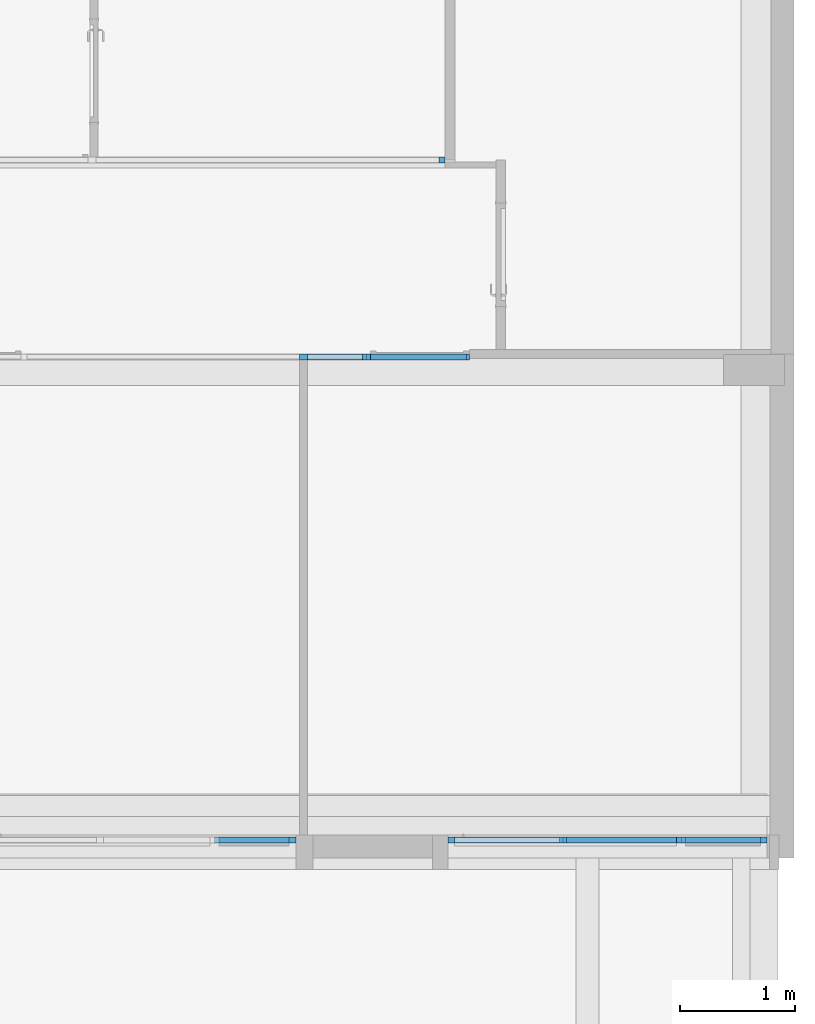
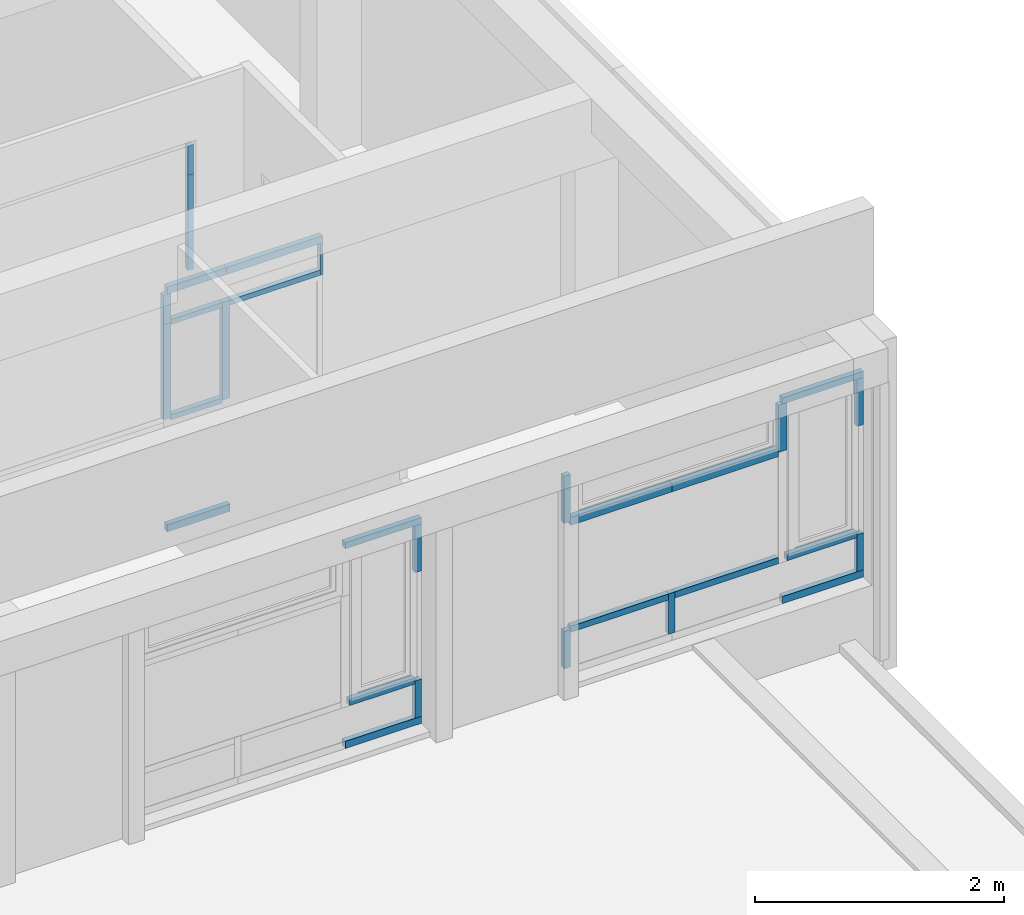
# One storey, part 16 of 49: 30 members, 4 elements without a shape of their own.
"""IFC4 building model written with IfcOpenShell, lengths in metres."""

from ifc_helpers import new_model, entity, si_unit, converted_unit, derived_unit, direction, frame, origin, place, context, subcontext, project, spatial, indexed_curve, outline, extrude, source, transform, mapped, material, type_object, type_shapes, element, aggregate, save


model = new_model("IFC4")

# Units and contexts
model_context = context("Model", 3, precision=1e-05, world=origin(), true_north=direction((6.12303176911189e-17, 1.0)))
body_context = subcontext(model_context, "Body", "Model", "MODEL_VIEW")
ifc_project = project(units=[si_unit("LENGTHUNIT", "METRE"), si_unit("AREAUNIT", "SQUARE_METRE"), si_unit("VOLUMEUNIT", "CUBIC_METRE"), converted_unit("PLANEANGLEUNIT", "DEGREE", entity("IfcRatioMeasure", 0.0174532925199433), si_unit("PLANEANGLEUNIT", "RADIAN"), dimensions=[0, 0, 0, 0, 0, 0, 0]), si_unit("MASSUNIT", "GRAM", prefix="KILO"), derived_unit("MASSDENSITYUNIT", [(si_unit("MASSUNIT", "GRAM", prefix="KILO"), 1), (si_unit("LENGTHUNIT", "METRE"), -3)]), derived_unit("MOMENTOFINERTIAUNIT", [(si_unit("LENGTHUNIT", "METRE"), 4)]), si_unit("TIMEUNIT", "SECOND"), si_unit("FREQUENCYUNIT", "HERTZ"), si_unit("THERMODYNAMICTEMPERATUREUNIT", "DEGREE_CELSIUS"), derived_unit("THERMALTRANSMITTANCEUNIT", [(si_unit("MASSUNIT", "GRAM", prefix="KILO"), 1), (si_unit("THERMODYNAMICTEMPERATUREUNIT", "KELVIN"), -1), (si_unit("TIMEUNIT", "SECOND"), -3)]), derived_unit("VOLUMETRICFLOWRATEUNIT", [(si_unit("LENGTHUNIT", "METRE"), 3), (si_unit("TIMEUNIT", "SECOND"), -1)]), si_unit("ELECTRICCURRENTUNIT", "AMPERE"), si_unit("ELECTRICVOLTAGEUNIT", "VOLT"), si_unit("POWERUNIT", "WATT"), si_unit("FORCEUNIT", "NEWTON", prefix="KILO"), si_unit("ILLUMINANCEUNIT", "LUX"), si_unit("LUMINOUSFLUXUNIT", "LUMEN"), si_unit("LUMINOUSINTENSITYUNIT", "CANDELA"), derived_unit("USERDEFINED", [(si_unit("MASSUNIT", "GRAM", prefix="KILO"), -1), (si_unit("LENGTHUNIT", "METRE"), -2), (si_unit("TIMEUNIT", "SECOND"), 3), (si_unit("LUMINOUSFLUXUNIT", "LUMEN"), 1)]), derived_unit("LINEARVELOCITYUNIT", [(si_unit("LENGTHUNIT", "METRE"), 1), (si_unit("TIMEUNIT", "SECOND"), -1)]), si_unit("PRESSUREUNIT", "PASCAL"), derived_unit("USERDEFINED", [(si_unit("LENGTHUNIT", "METRE"), -2), (si_unit("MASSUNIT", "GRAM", prefix="KILO"), 1), (si_unit("TIMEUNIT", "SECOND"), -2)]), derived_unit("LINEARFORCEUNIT", [(si_unit("MASSUNIT", "GRAM", prefix="KILO"), 1), (si_unit("LENGTHUNIT", "METRE"), 1), (si_unit("TIMEUNIT", "SECOND"), -2), (si_unit("LENGTHUNIT", "METRE"), -1)]), derived_unit("PLANARFORCEUNIT", [(si_unit("MASSUNIT", "GRAM", prefix="KILO"), 1), (si_unit("LENGTHUNIT", "METRE"), 1), (si_unit("TIMEUNIT", "SECOND"), -2), (si_unit("LENGTHUNIT", "METRE"), -2)])], contexts=[model_context])

# Site, building, storey
site_placement = place(None, origin())
site = spatial("IfcSite", under=ifc_project, at=site_placement, Name="Default", CompositionType="ELEMENT")
building_placement = place(site_placement, origin())
building = spatial("IfcBuilding", under=site, at=building_placement, Name="HOTEL CONSULAIRE BOULOGNE SUR MER", CompositionType="ELEMENT")
storey_placement = place(building_placement, frame((0.0, 0.0, 6.81974152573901)))
storey = spatial("IfcBuildingStorey", under=building, at=storey_placement, Name="Niveau 2", CompositionType="ELEMENT", Elevation=6.81974152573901)

# Curtain wall, members
curtain_wall_type = type_object("IfcCurtainWallType", Name="Mur-rideau:Simple panneau", PredefinedType="NOTDEFINED")
curtain_wall_1_placement = place(storey_placement, frame((0.0, 0.0, -6.81974152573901)))
curtain_wall_1 = element("IfcCurtainWall", 1, at=curtain_wall_1_placement, inside=storey, type_object=curtain_wall_type, Name="Mur-rideau:Simple panneau", ObjectType="Mur-rideau:Simple panneau", PredefinedType="NOTDEFINED")
ifc_material = material(Name="PVC - Blanc", Category="Plastique")
member_type_1 = type_object("IfcMemberType", Name="Meneau rectangulaire:50 x 125 mm", PredefinedType="MULLION", material=ifc_material)
shared_shape_1 = source(origin(), body_context, "Body", "SweptSolid", [
    extrude(outline(indexed_curve([(-0.025, -0.0125), (0.025, -0.0125), (0.025, 0.0125), (-0.025, 0.0125), (-0.025, -0.0125)], self_intersect=False)), frame((-0.0125, -0.025, -0.311), z_axis=(0.0, 0.0, 1.0), x_axis=(0.0, -1.0, 0.0)), (0.0, 0.0, 1.0), 0.311),
])
type_shapes(member_type_1, [shared_shape_1])
member_1_placement = place(storey_placement, frame((19.9763568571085, -19.643155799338, 2.332)))
member_1 = element("IfcMember", 2, at=member_1_placement, type_object=member_type_1, material=ifc_material, Name="Meneau rectangulaire:50 x 125 mm", ObjectType="Meneau rectangulaire:50 x 125 mm", PredefinedType="MULLION", context=body_context, shape_type="MappedRepresentation", body=[
    mapped(shared_shape_1, transform((0.0, 0.0, 0.0), scale=1.0)),
])
member_type_2 = type_object("IfcMemberType", Name="Meneau rectangulaire:50 x 25mm", PredefinedType="MULLION", material=ifc_material)
shared_shape_2 = source(origin(), body_context, "Body", "SweptSolid", [
    extrude(outline(indexed_curve([(-0.025, -0.025), (0.025, -0.025), (0.025, 0.025), (-0.025, 0.025), (-0.025, -0.025)], self_intersect=False)), frame((0.0, -0.025, -0.476999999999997), z_axis=(0.0, 0.0, 1.0), x_axis=(0.0, -1.0, 0.0)), (0.0, 0.0, 1.0), 0.476999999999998),
])
type_shapes(member_type_2, [shared_shape_2])
member_2_placement = place(storey_placement, frame((18.5683568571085, -19.643155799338, 2.046), z_axis=(-1.0, 0.0, 0.0), x_axis=(0.0, 0.0, 1.0)))
member_2 = element("IfcMember", 3, at=member_2_placement, type_object=member_type_2, material=ifc_material, Name="Meneau rectangulaire:50 x 25mm", ObjectType="Meneau rectangulaire:50 x 25mm", PredefinedType="MULLION", context=body_context, shape_type="MappedRepresentation", body=[
    mapped(shared_shape_2, transform((0.0, 0.0, 0.0), scale=1.0)),
])
member_3_placement = place(storey_placement, frame((18.5683568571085, -19.643155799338, 1.111), z_axis=(-1.0, 0.0, 0.0), x_axis=(0.0, 0.0, 1.0)))
member_3 = element("IfcMember", 4, at=member_3_placement, type_object=member_type_2, material=ifc_material, Name="Meneau rectangulaire:50 x 25mm", ObjectType="Meneau rectangulaire:50 x 25mm", PredefinedType="MULLION", context=body_context, shape_type="MappedRepresentation", body=[
    mapped(shared_shape_2, transform((0.0, 0.0, 0.0), scale=1.0)),
])
member_type_3 = type_object("IfcMemberType", Name="Meneau rectangulaire:50 x 25mm", PredefinedType="MULLION", material=ifc_material)
shared_shape_3 = source(origin(), body_context, "Body", "SweptSolid", [
    extrude(outline(indexed_curve([(-0.025, -0.025), (0.025, -0.025), (0.025, 0.025), (-0.025, 0.025), (-0.025, -0.025)], self_intersect=False)), frame((0.0, -0.025, -0.836000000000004), z_axis=(0.0, 0.0, 1.0), x_axis=(0.0, -1.0, 0.0)), (0.0, 0.0, 1.0), 0.836000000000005),
])
type_shapes(member_type_3, [shared_shape_3])
member_4_placement = place(storey_placement, frame((19.1153568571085, -19.643155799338, 2.046), z_axis=(-1.0, 0.0, 0.0), x_axis=(0.0, 0.0, 1.0)))
member_4 = element("IfcMember", 5, at=member_4_placement, type_object=member_type_3, material=ifc_material, Name="Meneau rectangulaire:50 x 25mm", ObjectType="Meneau rectangulaire:50 x 25mm", PredefinedType="MULLION", context=body_context, shape_type="MappedRepresentation", body=[
    mapped(shared_shape_3, transform((0.0, 0.0, 0.0), scale=1.0)),
])
member_type_4 = type_object("IfcMemberType", Name="Meneau rectangulaire:50 x 35", PredefinedType="MULLION", material=ifc_material)
shared_shape_4 = source(origin(), body_context, "Body", "SweptSolid", [
    extrude(outline(indexed_curve([(-0.025, -0.035), (0.025, -0.035), (0.025, 0.035), (-0.025, 0.035), (-0.025, -0.035)], self_intersect=False)), frame((0.0, -0.025, -0.959999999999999), z_axis=(0.0, 0.0, 1.0), x_axis=(0.0, -1.0, 0.0)), (0.0, 0.0, 1.0), 0.959999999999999),
])
type_shapes(member_type_4, [shared_shape_4])
member_5_placement = place(storey_placement, frame((19.0803568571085, -19.643155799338, 1.111), z_axis=(0.0, 0.0, -1.0), x_axis=(-1.0, 0.0, 0.0)))
member_5 = element("IfcMember", 6, at=member_5_placement, type_object=member_type_4, material=ifc_material, Name="Meneau rectangulaire:50 x 35", ObjectType="Meneau rectangulaire:50 x 35", PredefinedType="MULLION", context=body_context, shape_type="MappedRepresentation", body=[
    mapped(shared_shape_4, transform((0.0, 0.0, 0.0), scale=1.0)),
])
member_type_5 = type_object("IfcMemberType", Name="Meneau rectangulaire:50 x 35", PredefinedType="MULLION", material=ifc_material)
shared_shape_5 = source(origin(), body_context, "Body", "SweptSolid", [
    extrude(outline(indexed_curve([(-0.025, -0.035), (0.025, -0.035), (0.025, 0.035), (-0.025, 0.035), (-0.025, -0.035)], self_intersect=False)), frame((0.0, -0.025, -0.935), z_axis=(0.0, 0.0, 1.0), x_axis=(0.0, -1.0, 0.0)), (0.0, 0.0, 1.0), 0.935),
])
type_shapes(member_type_5, [shared_shape_5])
member_6_placement = place(storey_placement, frame((18.5333568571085, -19.643155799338, 1.111), z_axis=(0.0, 0.0, -1.0), x_axis=(-1.0, 0.0, 0.0)))
member_6 = element("IfcMember", 7, at=member_6_placement, type_object=member_type_5, material=ifc_material, Name="Meneau rectangulaire:50 x 35", ObjectType="Meneau rectangulaire:50 x 35", PredefinedType="MULLION", context=body_context, shape_type="MappedRepresentation", body=[
    mapped(shared_shape_5, transform((0.0, 0.0, 0.0), scale=1.0)),
])
member_type_6 = type_object("IfcMemberType", Name="Meneau rectangulaire:50 x 35", PredefinedType="MULLION", material=ifc_material)
shared_shape_6 = source(origin(), body_context, "Body", "SweptSolid", [
    extrude(outline(indexed_curve([(-0.025, -0.035), (0.025, -0.035), (0.025, 0.035), (-0.025, 0.035), (-0.025, -0.035)], self_intersect=False)), frame((0.0, -0.025, -0.286), z_axis=(0.0, 0.0, 1.0), x_axis=(0.0, -1.0, 0.0)), (0.0, 0.0, 1.0), 0.286),
])
type_shapes(member_type_6, [shared_shape_6])
member_7_placement = place(storey_placement, frame((18.5333568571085, -19.643155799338, 2.046), z_axis=(0.0, 0.0, -1.0), x_axis=(-1.0, 0.0, 0.0)))
member_7 = element("IfcMember", 8, at=member_7_placement, type_object=member_type_6, material=ifc_material, Name="Meneau rectangulaire:50 x 35", ObjectType="Meneau rectangulaire:50 x 35", PredefinedType="MULLION", context=body_context, shape_type="MappedRepresentation", body=[
    mapped(shared_shape_6, transform((0.0, 0.0, 0.0), scale=1.0)),
])
member_type_7 = type_object("IfcMemberType", Name="Meneau rectangulaire:50 x 35", PredefinedType="MULLION", material=ifc_material)
shared_shape_7 = source(origin(), body_context, "Body", "SweptSolid", [
    extrude(outline(indexed_curve([(-0.025, -0.035), (0.025, -0.035), (0.025, 0.035), (-0.025, 0.035), (-0.025, -0.035)], self_intersect=False)), frame((-0.035, -0.025, -0.896000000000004), z_axis=(0.0, 0.0, 1.0), x_axis=(0.0, -1.0, 0.0)), (0.0, 0.0, 1.0), 0.896000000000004),
])
type_shapes(member_type_7, [shared_shape_7])
member_8_placement = place(storey_placement, frame((19.0803568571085, -19.643155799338, 2.402), z_axis=(-1.0, 0.0, 0.0), x_axis=(0.0, 0.0, 1.0)))
member_8 = element("IfcMember", 9, at=member_8_placement, type_object=member_type_7, material=ifc_material, Name="Meneau rectangulaire:50 x 35", ObjectType="Meneau rectangulaire:50 x 35", PredefinedType="MULLION", context=body_context, shape_type="MappedRepresentation", body=[
    mapped(shared_shape_7, transform((0.0, 0.0, 0.0), scale=1.0)),
])
member_type_8 = type_object("IfcMemberType", Name="Meneau rectangulaire:50 x 35", PredefinedType="MULLION", material=ifc_material)
shared_shape_8 = source(origin(), body_context, "Body", "SweptSolid", [
    extrude(outline(indexed_curve([(-0.025, -0.035), (0.025, -0.035), (0.025, 0.035), (-0.025, 0.035), (-0.025, -0.035)], self_intersect=False)), frame((-0.035, -0.025, -0.546999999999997), z_axis=(0.0, 0.0, 1.0), x_axis=(0.0, -1.0, 0.0)), (0.0, 0.0, 1.0), 0.546999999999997),
])
type_shapes(member_type_8, [shared_shape_8])
member_9_placement = place(storey_placement, frame((18.5333568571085, -19.643155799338, 2.402), z_axis=(-1.0, 0.0, 0.0), x_axis=(0.0, 0.0, 1.0)))
member_9 = element("IfcMember", 10, at=member_9_placement, type_object=member_type_8, material=ifc_material, Name="Meneau rectangulaire:50 x 35", ObjectType="Meneau rectangulaire:50 x 35", PredefinedType="MULLION", context=body_context, shape_type="MappedRepresentation", body=[
    mapped(shared_shape_8, transform((0.0, 0.0, 0.0), scale=1.0)),
])
member_type_9 = type_object("IfcMemberType", Name="Meneau rectangulaire:50 x 35", PredefinedType="MULLION", material=ifc_material)
shared_shape_9 = source(origin(), body_context, "Body", "SweptSolid", [
    extrude(outline(indexed_curve([(-0.025, -0.035), (0.025, -0.035), (0.025, 0.035), (-0.025, 0.035), (-0.025, -0.035)], self_intersect=False)), frame((-0.035, -0.025, -0.581999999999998), z_axis=(0.0, 0.0, 1.0), x_axis=(0.0, -1.0, 0.0)), (0.0, 0.0, 1.0), 0.581999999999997),
])
type_shapes(member_type_9, [shared_shape_9])
member_10_placement = place(storey_placement, frame((19.1153568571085, -19.643155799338, 0.0), z_axis=(1.0, 0.0, 0.0), x_axis=(0.0, 0.0, -1.0)))
member_10 = element("IfcMember", 11, at=member_10_placement, type_object=member_type_9, material=ifc_material, Name="Meneau rectangulaire:50 x 35", ObjectType="Meneau rectangulaire:50 x 35", PredefinedType="MULLION", context=body_context, shape_type="MappedRepresentation", body=[
    mapped(shared_shape_9, transform((0.0, 0.0, 0.0), scale=1.0)),
])
aggregate(curtain_wall_1, [member_1, member_2, member_4, member_5, member_6, member_7, member_3, member_8, member_9, member_10])

curtain_wall_2_placement = place(storey_placement, frame((0.0, 0.0, -6.81974152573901)))
curtain_wall_2 = element("IfcCurtainWall", 12, at=curtain_wall_2_placement, inside=storey, type_object=curtain_wall_type, Name="Mur-rideau:Simple panneau", ObjectType="Mur-rideau:Simple panneau", PredefinedType="NOTDEFINED")
member_type_10 = type_object("IfcMemberType", Name="Meneau rectangulaire:50 x 25mm", PredefinedType="MULLION", material=ifc_material)
shared_shape_10 = source(origin(), body_context, "Body", "SweptSolid", [
    extrude(outline(indexed_curve([(-0.025, -0.025), (0.025, -0.025), (0.025, 0.025), (-0.025, 0.025), (-0.025, -0.025)], self_intersect=False)), frame((-0.025, -0.025, -0.934999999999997), z_axis=(0.0, 0.0, 1.0), x_axis=(0.0, -1.0, 0.0)), (0.0, 0.0, 1.0), 0.934999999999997),
])
type_shapes(member_type_10, [shared_shape_10])
member_11_placement = place(storey_placement, frame((19.762075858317, -17.9313078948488, 2.046)))
member_11 = element("IfcMember", 13, at=member_11_placement, type_object=member_type_10, material=ifc_material, Name="Meneau rectangulaire:50 x 25mm", ObjectType="Meneau rectangulaire:50 x 25mm", PredefinedType="MULLION", context=body_context, shape_type="MappedRepresentation", body=[
    mapped(shared_shape_10, transform((0.0, 0.0, 0.0), scale=1.0)),
])
member_type_11 = type_object("IfcMemberType", Name="Meneau rectangulaire:50 x 25mm", PredefinedType="MULLION", material=ifc_material)
shared_shape_11 = source(origin(), body_context, "Body", "SweptSolid", [
    extrude(outline(indexed_curve([(-0.025, -0.025), (0.025, -0.025), (0.025, 0.025), (-0.025, 0.025), (-0.025, -0.025)], self_intersect=False)), frame((-0.025, -0.025, -0.286), z_axis=(0.0, 0.0, 1.0), x_axis=(0.0, -1.0, 0.0)), (0.0, 0.0, 1.0), 0.286),
])
type_shapes(member_type_11, [shared_shape_11])
member_12_placement = place(storey_placement, frame((19.762075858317, -17.9313078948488, 2.332)))
member_12 = element("IfcMember", 14, at=member_12_placement, type_object=member_type_11, material=ifc_material, Name="Meneau rectangulaire:50 x 25mm", ObjectType="Meneau rectangulaire:50 x 25mm", PredefinedType="MULLION", context=body_context, shape_type="MappedRepresentation", body=[
    mapped(shared_shape_11, transform((0.0, 0.0, 0.0), scale=1.0)),
])
aggregate(curtain_wall_2, [member_11, member_12])

curtain_wall_3_placement = place(storey_placement, frame((0.0, 0.0, -6.81974152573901)))
curtain_wall_3 = element("IfcCurtainWall", 15, at=curtain_wall_3_placement, inside=storey, type_object=curtain_wall_type, Name="Mur-rideau:Simple panneau", ObjectType="Mur-rideau:Simple panneau", PredefinedType="NOTDEFINED")
member_type_12 = type_object("IfcMemberType", Name="Meneau rectangulaire:50 x 35", PredefinedType="MULLION", material=ifc_material)
shared_shape_12 = source(origin(), body_context, "Body", "SweptSolid", [
    extrude(outline(indexed_curve([(-0.025, -0.035), (0.025, -0.035), (0.025, 0.035), (-0.025, 0.035), (-0.025, -0.035)], self_intersect=False)), frame((-0.035, -0.025, -0.748999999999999), z_axis=(0.0, 0.0, 1.0), x_axis=(0.0, -1.0, 0.0)), (0.0, 0.0, 1.0), 0.748999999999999),
])
type_shapes(member_type_12, [shared_shape_12])
member_13_placement = place(storey_placement, frame((21.8160413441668, -23.8933633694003, 0.693999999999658), z_axis=(-1.0, 0.0, 0.0), x_axis=(0.0, 0.0, -1.0)))
member_13 = element("IfcMember", 16, at=member_13_placement, type_object=member_type_12, material=ifc_material, Name="Meneau rectangulaire:50 x 35", ObjectType="Meneau rectangulaire:50 x 35", PredefinedType="MULLION", context=body_context, shape_type="MappedRepresentation", body=[
    mapped(shared_shape_12, transform((0.0, 0.0, 0.0), scale=1.0)),
])
member_type_13 = type_object("IfcMemberType", Name="Meneau rectangulaire:50 x 30", PredefinedType="MULLION", material=ifc_material)
shared_shape_13 = source(origin(), body_context, "Body", "SweptSolid", [
    extrude(outline(indexed_curve([(-0.025, -0.03), (0.025, -0.03), (0.025, 0.03), (-0.025, 0.03), (-0.025, -0.03)], self_intersect=False)), frame((-0.03, -0.025, -0.366), z_axis=(0.0, 0.0, 1.0), x_axis=(0.0, -1.0, 0.0)), (0.0, 0.0, 1.0), 0.366),
])
type_shapes(member_type_13, [shared_shape_13])
member_14_placement = place(storey_placement, frame((19.7880413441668, -23.8933633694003, 1.12999999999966), z_axis=(0.0, 0.0, 1.0), x_axis=(-1.0, 0.0, 0.0)))
member_14 = element("IfcMember", 17, at=member_14_placement, type_object=member_type_13, material=ifc_material, Name="Meneau rectangulaire:50 x 30", ObjectType="Meneau rectangulaire:50 x 30", PredefinedType="MULLION", context=body_context, shape_type="MappedRepresentation", body=[
    mapped(shared_shape_13, transform((0.0, 0.0, 0.0), scale=1.0)),
])
member_type_14 = type_object("IfcMemberType", Name="Meneau rectangulaire:50 x 30", PredefinedType="MULLION", material=ifc_material)
shared_shape_14 = source(origin(), body_context, "Body", "SweptSolid", [
    extrude(outline(indexed_curve([(-0.025, -0.03), (0.025, -0.03), (0.025, 0.03), (-0.025, 0.03), (-0.025, -0.03)], self_intersect=False)), frame((-0.03, -0.025, -0.462000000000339), z_axis=(0.0, 0.0, 1.0), x_axis=(0.0, -1.0, 0.0)), (0.0, 0.0, 1.0), 0.462000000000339),
])
type_shapes(member_type_14, [shared_shape_14])
member_15_placement = place(storey_placement, frame((19.7880413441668, -23.8933633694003, 2.652), z_axis=(0.0, 0.0, 1.0), x_axis=(-1.0, 0.0, 0.0)))
member_15 = element("IfcMember", 18, at=member_15_placement, type_object=member_type_14, material=ifc_material, Name="Meneau rectangulaire:50 x 30", ObjectType="Meneau rectangulaire:50 x 30", PredefinedType="MULLION", context=body_context, shape_type="MappedRepresentation", body=[
    mapped(shared_shape_14, transform((0.0, 0.0, 0.0), scale=1.0)),
])
member_type_15 = type_object("IfcMemberType", Name="Meneau rectangulaire:50 x 30", PredefinedType="MULLION", material=ifc_material)
shared_shape_15 = source(origin(), body_context, "Body", "SweptSolid", [
    extrude(outline(indexed_curve([(-0.025, -0.03), (0.025, -0.03), (0.025, 0.03), (-0.025, 0.03), (-0.025, -0.03)], self_intersect=False)), frame((-0.03, -0.025, -0.462000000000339), z_axis=(0.0, 0.0, 1.0), x_axis=(0.0, -1.0, 0.0)), (0.0, 0.0, 1.0), 0.462000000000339),
])
type_shapes(member_type_15, [shared_shape_15])
member_16_placement = place(storey_placement, frame((22.5650413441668, -23.8933633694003, 2.18999999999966), z_axis=(0.0, 0.0, -1.0), x_axis=(1.0, 0.0, 0.0)))
member_16 = element("IfcMember", 19, at=member_16_placement, type_object=member_type_15, material=ifc_material, Name="Meneau rectangulaire:50 x 30", ObjectType="Meneau rectangulaire:50 x 30", PredefinedType="MULLION", context=body_context, shape_type="MappedRepresentation", body=[
    mapped(shared_shape_15, transform((0.0, 0.0, 0.0), scale=1.0)),
])

# Curtain wall, member
curtain_wall_4_placement = place(storey_placement, frame((0.0, 0.0, -6.81974152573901)))
curtain_wall_4 = element("IfcCurtainWall", 20, at=curtain_wall_4_placement, inside=storey, type_object=curtain_wall_type, Name="Mur-rideau:Simple panneau", ObjectType="Mur-rideau:Simple panneau", PredefinedType="NOTDEFINED")
member_17_placement = place(storey_placement, frame((18.4670413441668, -23.8933633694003, 2.18999999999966), z_axis=(0.0, 0.0, -1.0), x_axis=(1.0, 0.0, 0.0)))
member_17 = element("IfcMember", 21, at=member_17_placement, type_object=member_type_15, material=ifc_material, Name="Meneau rectangulaire:50 x 30", ObjectType="Meneau rectangulaire:50 x 30", PredefinedType="MULLION", context=body_context, shape_type="MappedRepresentation", body=[
    mapped(shared_shape_15, transform((0.0, 0.0, 0.0), scale=1.0)),
])

# Member
member_type_16 = type_object("IfcMemberType", Name="Meneau rectangulaire:50 x 30", PredefinedType="MULLION", material=ifc_material)
shared_shape_16 = source(origin(), body_context, "Body", "SweptSolid", [
    extrude(outline(indexed_curve([(-0.025, -0.03), (0.025, -0.03), (0.025, 0.03), (-0.025, 0.03), (-0.025, -0.03)], self_intersect=False)), frame((-0.03, -0.025, -0.366), z_axis=(0.0, 0.0, 1.0), x_axis=(0.0, -1.0, 0.0)), (0.0, 0.0, 1.0), 0.366),
])
type_shapes(member_type_16, [shared_shape_16])
member_18_placement = place(storey_placement, frame((22.5650413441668, -23.8933633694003, 0.763999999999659), z_axis=(0.0, 0.0, -1.0), x_axis=(1.0, 0.0, 0.0)))
member_18 = element("IfcMember", 22, at=member_18_placement, type_object=member_type_16, material=ifc_material, Name="Meneau rectangulaire:50 x 30", ObjectType="Meneau rectangulaire:50 x 30", PredefinedType="MULLION", context=body_context, shape_type="MappedRepresentation", body=[
    mapped(shared_shape_16, transform((0.0, 0.0, 0.0), scale=1.0)),
])

member_19_placement = place(storey_placement, frame((18.4670413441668, -23.8933633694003, 0.763999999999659), z_axis=(0.0, 0.0, -1.0), x_axis=(1.0, 0.0, 0.0)))
member_19 = element("IfcMember", 23, at=member_19_placement, type_object=member_type_16, material=ifc_material, Name="Meneau rectangulaire:50 x 30", ObjectType="Meneau rectangulaire:50 x 30", PredefinedType="MULLION", context=body_context, shape_type="MappedRepresentation", body=[
    mapped(shared_shape_16, transform((0.0, 0.0, 0.0), scale=1.0)),
])

member_type_17 = type_object("IfcMemberType", Name="Meneau rectangulaire:50 x 30", PredefinedType="MULLION", material=ifc_material)
shared_shape_17 = source(origin(), body_context, "Body", "SweptSolid", [
    extrude(outline(indexed_curve([(-0.025, -0.03), (0.025, -0.03), (0.025, 0.03), (-0.025, 0.03), (-0.025, -0.03)], self_intersect=False)), frame((-0.03, -0.025, -0.749), z_axis=(0.0, 0.0, 1.0), x_axis=(0.0, -1.0, 0.0)), (0.0, 0.0, 1.0), 0.749),
])
type_shapes(member_type_17, [shared_shape_17])
member_20_placement = place(storey_placement, frame((22.5650413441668, -23.8933633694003, 2.712), z_axis=(1.0, 0.0, 0.0), x_axis=(0.0, 0.0, 1.0)))
member_20 = element("IfcMember", 24, at=member_20_placement, type_object=member_type_17, material=ifc_material, Name="Meneau rectangulaire:50 x 30", ObjectType="Meneau rectangulaire:50 x 30", PredefinedType="MULLION", context=body_context, shape_type="MappedRepresentation", body=[
    mapped(shared_shape_17, transform((0.0, 0.0, 0.0), scale=1.0)),
])

member_type_18 = type_object("IfcMemberType", Name="Meneau rectangulaire:50 x 40", PredefinedType="MULLION", material=ifc_material)
shared_shape_18 = source(origin(), body_context, "Body", "SweptSolid", [
    extrude(outline(indexed_curve([(-0.025, -0.04), (0.025, -0.04), (0.025, 0.04), (-0.025, 0.04), (-0.025, -0.04)], self_intersect=False)), frame((0.0, -0.025, -0.988000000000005), z_axis=(0.0, 0.0, 1.0), x_axis=(0.0, -1.0, 0.0)), (0.0, 0.0, 1.0), 0.988000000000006),
])
type_shapes(member_type_18, [shared_shape_18])
member_21_placement = place(storey_placement, frame((21.7760413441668, -23.8933633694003, 2.18999999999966), z_axis=(1.0, 0.0, 0.0), x_axis=(0.0, 0.0, 1.0)))
member_21 = element("IfcMember", 25, at=member_21_placement, type_object=member_type_18, material=ifc_material, Name="Meneau rectangulaire:50 x 40", ObjectType="Meneau rectangulaire:50 x 40", PredefinedType="MULLION", context=body_context, shape_type="MappedRepresentation", body=[
    mapped(shared_shape_18, transform((0.0, 0.0, 0.0), scale=1.0)),
])

member_type_19 = type_object("IfcMemberType", Name="Meneau rectangulaire:50 x 40", PredefinedType="MULLION", material=ifc_material)
shared_shape_19 = source(origin(), body_context, "Body", "SweptSolid", [
    extrude(outline(indexed_curve([(-0.025, -0.04), (0.025, -0.04), (0.025, 0.04), (-0.025, 0.04), (-0.025, -0.04)], self_intersect=False)), frame((0.0, -0.025, -0.939999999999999), z_axis=(0.0, 0.0, 1.0), x_axis=(0.0, -1.0, 0.0)), (0.0, 0.0, 1.0), 0.939999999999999),
])
type_shapes(member_type_19, [shared_shape_19])
member_22_placement = place(storey_placement, frame((20.7880413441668, -23.8933633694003, 2.18999999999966), z_axis=(1.0, 0.0, 0.0), x_axis=(0.0, 0.0, 1.0)))
member_22 = element("IfcMember", 26, at=member_22_placement, type_object=member_type_19, material=ifc_material, Name="Meneau rectangulaire:50 x 40", ObjectType="Meneau rectangulaire:50 x 40", PredefinedType="MULLION", context=body_context, shape_type="MappedRepresentation", body=[
    mapped(shared_shape_19, transform((0.0, 0.0, 0.0), scale=1.0)),
])

member_type_20 = type_object("IfcMemberType", Name="Meneau rectangulaire:50 x 40", PredefinedType="MULLION", material=ifc_material)
shared_shape_20 = source(origin(), body_context, "Body", "SweptSolid", [
    extrude(outline(indexed_curve([(-0.025, -0.04), (0.025, -0.04), (0.025, 0.04), (-0.025, 0.04), (-0.025, -0.04)], self_intersect=False)), frame((0.0, -0.025, -0.462000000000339), z_axis=(0.0, 0.0, 1.0), x_axis=(0.0, -1.0, 0.0)), (0.0, 0.0, 1.0), 0.462000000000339),
])
type_shapes(member_type_20, [shared_shape_20])
member_23_placement = place(storey_placement, frame((21.8160413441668, -23.8933633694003, 2.18999999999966), z_axis=(0.0, 0.0, -1.0), x_axis=(1.0, 0.0, 0.0)))
member_23 = element("IfcMember", 27, at=member_23_placement, type_object=member_type_20, material=ifc_material, Name="Meneau rectangulaire:50 x 40", ObjectType="Meneau rectangulaire:50 x 40", PredefinedType="MULLION", context=body_context, shape_type="MappedRepresentation", body=[
    mapped(shared_shape_20, transform((0.0, 0.0, 0.0), scale=1.0)),
])

member_type_21 = type_object("IfcMemberType", Name="Meneau rectangulaire:50 x 30", PredefinedType="MULLION", material=ifc_material)
shared_shape_21 = source(origin(), body_context, "Body", "SweptSolid", [
    extrude(outline(indexed_curve([(-0.025, -0.03), (0.025, -0.03), (0.025, 0.03), (-0.025, 0.03), (-0.025, -0.03)], self_intersect=False)), frame((0.0, -0.025, -0.958000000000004), z_axis=(0.0, 0.0, 1.0), x_axis=(0.0, -1.0, 0.0)), (0.0, 0.0, 1.0), 0.958000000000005),
])
type_shapes(member_type_21, [shared_shape_21])
member_24_placement = place(storey_placement, frame((21.7760413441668, -23.8933633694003, 1.12999999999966), z_axis=(1.0, 0.0, 0.0), x_axis=(0.0, 0.0, 1.0)))
member_24 = element("IfcMember", 28, at=member_24_placement, type_object=member_type_21, material=ifc_material, Name="Meneau rectangulaire:50 x 30", ObjectType="Meneau rectangulaire:50 x 30", PredefinedType="MULLION", context=body_context, shape_type="MappedRepresentation", body=[
    mapped(shared_shape_21, transform((0.0, 0.0, 0.0), scale=1.0)),
])

member_type_22 = type_object("IfcMemberType", Name="Meneau rectangulaire:50 x 30", PredefinedType="MULLION", material=ifc_material)
shared_shape_22 = source(origin(), body_context, "Body", "SweptSolid", [
    extrude(outline(indexed_curve([(-0.025, -0.03), (0.025, -0.03), (0.025, 0.03), (-0.025, 0.03), (-0.025, -0.03)], self_intersect=False)), frame((0.0, -0.025, -0.649), z_axis=(0.0, 0.0, 1.0), x_axis=(0.0, -1.0, 0.0)), (0.0, 0.0, 1.0), 0.648999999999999),
])
type_shapes(member_type_22, [shared_shape_22])
member_25_placement = place(storey_placement, frame((22.5050413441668, -23.8933633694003, 1.12999999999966), z_axis=(1.0, 0.0, 0.0), x_axis=(0.0, 0.0, 1.0)))
member_25 = element("IfcMember", 29, at=member_25_placement, type_object=member_type_22, material=ifc_material, Name="Meneau rectangulaire:50 x 30", ObjectType="Meneau rectangulaire:50 x 30", PredefinedType="MULLION", context=body_context, shape_type="MappedRepresentation", body=[
    mapped(shared_shape_22, transform((0.0, 0.0, 0.0), scale=1.0)),
])

member_type_23 = type_object("IfcMemberType", Name="Meneau rectangulaire:50 x 30", PredefinedType="MULLION", material=ifc_material)
shared_shape_23 = source(origin(), body_context, "Body", "SweptSolid", [
    extrude(outline(indexed_curve([(-0.025, -0.03), (0.025, -0.03), (0.025, 0.03), (-0.025, 0.03), (-0.025, -0.03)], self_intersect=False)), frame((0.0, -0.025, -0.909999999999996), z_axis=(0.0, 0.0, 1.0), x_axis=(0.0, -1.0, 0.0)), (0.0, 0.0, 1.0), 0.909999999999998),
])
type_shapes(member_type_23, [shared_shape_23])
member_26_placement = place(storey_placement, frame((20.7580413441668, -23.8933633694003, 1.12999999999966), z_axis=(1.0, 0.0, 0.0), x_axis=(0.0, 0.0, 1.0)))
member_26 = element("IfcMember", 30, at=member_26_placement, type_object=member_type_23, material=ifc_material, Name="Meneau rectangulaire:50 x 30", ObjectType="Meneau rectangulaire:50 x 30", PredefinedType="MULLION", context=body_context, shape_type="MappedRepresentation", body=[
    mapped(shared_shape_23, transform((0.0, 0.0, 0.0), scale=1.0)),
])

member_type_24 = type_object("IfcMemberType", Name="Meneau rectangulaire:50 x 30", PredefinedType="MULLION", material=ifc_material)
shared_shape_24 = source(origin(), body_context, "Body", "SweptSolid", [
    extrude(outline(indexed_curve([(-0.025, -0.03), (0.025, -0.03), (0.025, 0.03), (-0.025, 0.03), (-0.025, -0.03)], self_intersect=False)), frame((0.0, -0.025, -0.396), z_axis=(0.0, 0.0, 1.0), x_axis=(0.0, -1.0, 0.0)), (0.0, 0.0, 1.0), 0.396),
])
type_shapes(member_type_24, [shared_shape_24])
member_27_placement = place(storey_placement, frame((20.7880413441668, -23.8933633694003, 0.763999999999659), z_axis=(0.0, 0.0, -1.0), x_axis=(1.0, 0.0, 0.0)))
member_27 = element("IfcMember", 31, at=member_27_placement, type_object=member_type_24, material=ifc_material, Name="Meneau rectangulaire:50 x 30", ObjectType="Meneau rectangulaire:50 x 30", PredefinedType="MULLION", context=body_context, shape_type="MappedRepresentation", body=[
    mapped(shared_shape_24, transform((0.0, 0.0, 0.0), scale=1.0)),
])

aggregate(curtain_wall_3, [member_13, member_14, member_15, member_16, member_18, member_20, member_21, member_22, member_23, member_24, member_25, member_26, member_27])

member_type_25 = type_object("IfcMemberType", Name="Meneau rectangulaire:50 x 35", PredefinedType="MULLION", material=ifc_material)
shared_shape_25 = source(origin(), body_context, "Body", "SweptSolid", [
    extrude(outline(indexed_curve([(-0.025, -0.035), (0.025, -0.035), (0.025, 0.035), (-0.025, 0.035), (-0.025, -0.035)], self_intersect=False)), frame((-0.035, -0.025, -0.709), z_axis=(0.0, 0.0, 1.0), x_axis=(0.0, -1.0, 0.0)), (0.0, 0.0, 1.0), 0.708999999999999),
])
type_shapes(member_type_25, [shared_shape_25])
member_28_placement = place(storey_placement, frame((17.7580413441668, -23.8933633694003, 0.693999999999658), z_axis=(-1.0, 0.0, 0.0), x_axis=(0.0, 0.0, -1.0)))
member_28 = element("IfcMember", 32, at=member_28_placement, type_object=member_type_25, material=ifc_material, Name="Meneau rectangulaire:50 x 35", ObjectType="Meneau rectangulaire:50 x 35", PredefinedType="MULLION", context=body_context, shape_type="MappedRepresentation", body=[
    mapped(shared_shape_25, transform((0.0, 0.0, 0.0), scale=1.0)),
])

member_type_26 = type_object("IfcMemberType", Name="Meneau rectangulaire:50 x 30", PredefinedType="MULLION", material=ifc_material)
shared_shape_26 = source(origin(), body_context, "Body", "SweptSolid", [
    extrude(outline(indexed_curve([(-0.025, -0.03), (0.025, -0.03), (0.025, 0.03), (-0.025, 0.03), (-0.025, -0.03)], self_intersect=False)), frame((-0.03, -0.025, -0.709), z_axis=(0.0, 0.0, 1.0), x_axis=(0.0, -1.0, 0.0)), (0.0, 0.0, 1.0), 0.709000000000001),
])
type_shapes(member_type_26, [shared_shape_26])
member_29_placement = place(storey_placement, frame((18.4670413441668, -23.8933633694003, 2.712), z_axis=(1.0, 0.0, 0.0), x_axis=(0.0, 0.0, 1.0)))
member_29 = element("IfcMember", 33, at=member_29_placement, type_object=member_type_26, material=ifc_material, Name="Meneau rectangulaire:50 x 30", ObjectType="Meneau rectangulaire:50 x 30", PredefinedType="MULLION", context=body_context, shape_type="MappedRepresentation", body=[
    mapped(shared_shape_26, transform((0.0, 0.0, 0.0), scale=1.0)),
])

member_type_27 = type_object("IfcMemberType", Name="Meneau rectangulaire:50 x 30", PredefinedType="MULLION", material=ifc_material)
shared_shape_27 = source(origin(), body_context, "Body", "SweptSolid", [
    extrude(outline(indexed_curve([(-0.025, -0.03), (0.025, -0.03), (0.025, 0.03), (-0.025, 0.03), (-0.025, -0.03)], self_intersect=False)), frame((0.0, -0.025, -0.608999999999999), z_axis=(0.0, 0.0, 1.0), x_axis=(0.0, -1.0, 0.0)), (0.0, 0.0, 1.0), 0.608999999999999),
])
type_shapes(member_type_27, [shared_shape_27])
member_30_placement = place(storey_placement, frame((18.4070413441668, -23.8933633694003, 1.12999999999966), z_axis=(1.0, 0.0, 0.0), x_axis=(0.0, 0.0, 1.0)))
member_30 = element("IfcMember", 34, at=member_30_placement, type_object=member_type_27, material=ifc_material, Name="Meneau rectangulaire:50 x 30", ObjectType="Meneau rectangulaire:50 x 30", PredefinedType="MULLION", context=body_context, shape_type="MappedRepresentation", body=[
    mapped(shared_shape_27, transform((0.0, 0.0, 0.0), scale=1.0)),
])

aggregate(curtain_wall_4, [member_28, member_17, member_19, member_29, member_30])

save(model, "model.ifc")
